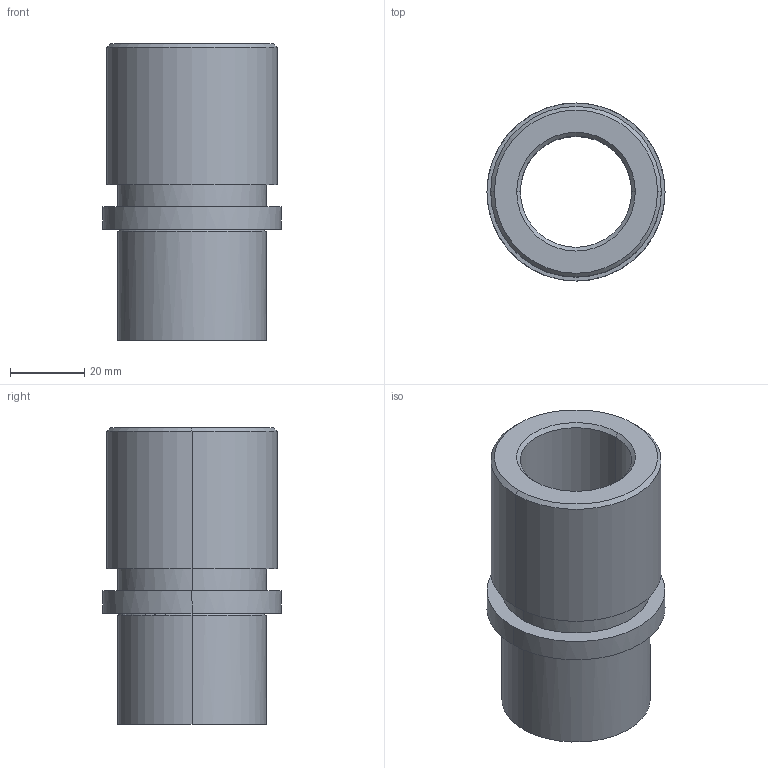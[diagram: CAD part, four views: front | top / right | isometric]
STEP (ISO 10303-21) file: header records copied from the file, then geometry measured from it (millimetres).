
FILE_DESCRIPTION(('CATIA V5 STEP Exchange'),'2;1');
FILE_NAME('C:\Users\Utente\Desktop\IO LAVORO\3D X SITO CF\X SITO\734\734-24.stp','2021-01-16T19:07:33+00:00',('none'),('none'),'CATIA Version 5 Release 20 GA (IN-10)','CATIA V5 STEP AP203','none');
FILE_SCHEMA(('CONFIG_CONTROL_DESIGN'));
Length unit declared in the file: millimetre
Products named in the file (1): 734-24
Assembly tree (1 placements, depth 2):
  734-24
    #58
Bounding box: 48 x 48 x 80 mm (x, y, z)
Volume: 62426.2 mm3; surface area: 21483.3 mm2
Topology: 1 solids, 1 shells, 25 faces, 50 edges, 30 vertices
Faces by surface type: cylinder 10, cone 6, plane 5, torus 4
Entity records: 851 total; most frequent: CARTESIAN_POINT 282, ORIENTED_EDGE 100, DIRECTION 96, AXIS2_PLACEMENT_3D 53, EDGE_CURVE 50, EDGE_LOOP 30, VERTEX_POINT 30, CIRCLE 26
